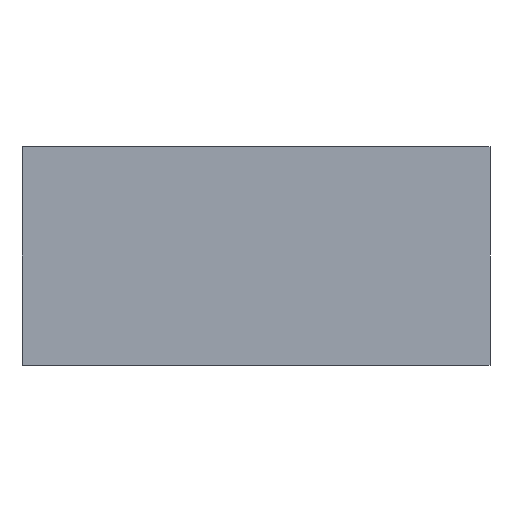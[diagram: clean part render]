
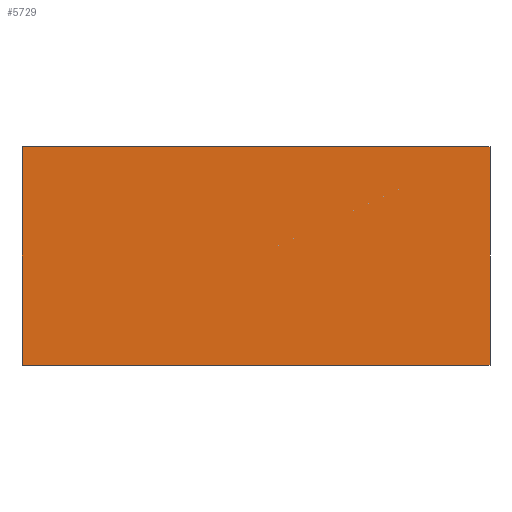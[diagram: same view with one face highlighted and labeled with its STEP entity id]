
A CAD part, front view. The second image highlights one B-rep face of the part: STEP entity #5729.
In plain terms, the highlighted planar face has unit normal (0, -1, 0).
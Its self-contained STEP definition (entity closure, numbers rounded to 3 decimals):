
#340 = CARTESIAN_POINT ( 'NONE',  ( 1500., -200., 0. ) ) ;
#569 = DIRECTION ( 'NONE',  ( 1., 0., 0. ) ) ;
#857 = EDGE_CURVE ( 'NONE', #1324, #6725, #5350, .T. ) ;
#1324 = VERTEX_POINT ( 'NONE', #5631 ) ;
#1422 = LINE ( 'NONE', #4623, #7450 ) ;
#1544 = LINE ( 'NONE', #7113, #5977 ) ;
#1770 = PLANE ( 'NONE',  #6304 ) ;
#1820 = CARTESIAN_POINT ( 'NONE',  ( 0., -200., 700. ) ) ;
#2948 = LINE ( 'NONE', #5452, #3106 ) ;
#3106 = VECTOR ( 'NONE', #7713, 1000. ) ;
#3224 = CARTESIAN_POINT ( 'NONE',  ( 0., -200., 0. ) ) ;
#3310 = EDGE_CURVE ( 'NONE', #1324, #4703, #2948, .T. ) ;
#3867 = ORIENTED_EDGE ( 'NONE', *, *, #5140, .F. ) ;
#4623 = CARTESIAN_POINT ( 'NONE',  ( 1500., -200., 700. ) ) ;
#4690 = VECTOR ( 'NONE', #569, 1000. ) ;
#4703 = VERTEX_POINT ( 'NONE', #3224 ) ;
#4973 = DIRECTION ( 'NONE',  ( 0., 1., 0. ) ) ;
#5140 = EDGE_CURVE ( 'NONE', #6725, #8078, #1422, .T. ) ;
#5350 = LINE ( 'NONE', #8599, #4690 ) ;
#5452 = CARTESIAN_POINT ( 'NONE',  ( 0., -200., 700. ) ) ;
#5502 = DIRECTION ( 'NONE',  ( 0., 0., -1. ) ) ;
#5631 = CARTESIAN_POINT ( 'NONE',  ( 0., -200., 700. ) ) ;
#5729 = ADVANCED_FACE ( 'NONE', ( #9013 ), #1770, .F. ) ;
#5826 = ORIENTED_EDGE ( 'NONE', *, *, #3310, .T. ) ;
#5977 = VECTOR ( 'NONE', #9470, 1000. ) ;
#6304 = AXIS2_PLACEMENT_3D ( 'NONE', #1820, #4973, #8165 ) ;
#6725 = VERTEX_POINT ( 'NONE', #6745 ) ;
#6745 = CARTESIAN_POINT ( 'NONE',  ( 1500., -200., 700. ) ) ;
#7113 = CARTESIAN_POINT ( 'NONE',  ( 0., -200., 0. ) ) ;
#7450 = VECTOR ( 'NONE', #5502, 1000. ) ;
#7713 = DIRECTION ( 'NONE',  ( 0., 0., -1. ) ) ;
#7801 = EDGE_CURVE ( 'NONE', #4703, #8078, #1544, .T. ) ;
#8078 = VERTEX_POINT ( 'NONE', #340 ) ;
#8165 = DIRECTION ( 'NONE',  ( 0., 0., 1. ) ) ;
#8599 = CARTESIAN_POINT ( 'NONE',  ( 0., -200., 700. ) ) ;
#9013 = FACE_OUTER_BOUND ( 'NONE', #9843, .T. ) ;
#9470 = DIRECTION ( 'NONE',  ( 1., 0., 0. ) ) ;
#9487 = ORIENTED_EDGE ( 'NONE', *, *, #857, .F. ) ;
#9843 = EDGE_LOOP ( 'NONE', ( #10167, #3867, #9487, #5826 ) ) ;
#10167 = ORIENTED_EDGE ( 'NONE', *, *, #7801, .T. ) ;
